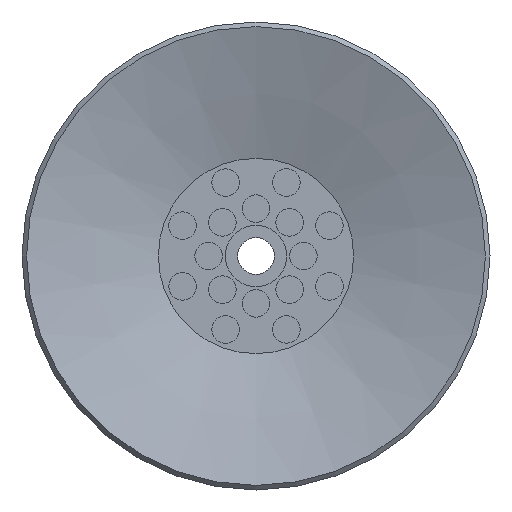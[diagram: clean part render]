
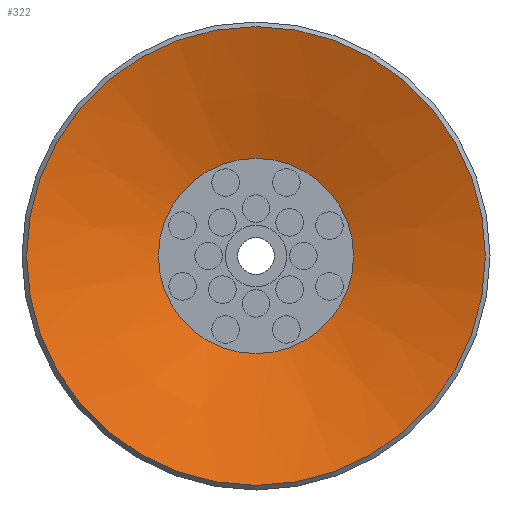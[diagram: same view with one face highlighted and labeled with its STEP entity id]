
A CAD part, front view. The second image highlights one B-rep face of the part: STEP entity #322.
In plain terms, the highlighted conical face has half-angle 72 degrees and reference radius 7.5 mm.
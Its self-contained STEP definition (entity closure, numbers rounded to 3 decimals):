
#322=ADVANCED_FACE('',(#500,#501),#502,.F.);
#500=FACE_BOUND('',#747,.T.);
#501=FACE_OUTER_BOUND('',#748,.T.);
#502=CONICAL_SURFACE('',#749,7.5,1.257);
#747=EDGE_LOOP('',(#1145));
#748=EDGE_LOOP('',(#1146));
#749=AXIS2_PLACEMENT_3D('',#1147,#1148,#1149);
#1145=ORIENTED_EDGE('',*,*,#1388,.T.);
#1146=ORIENTED_EDGE('',*,*,#1389,.F.);
#1147=CARTESIAN_POINT('',(0.0,0.,0.));
#1148=DIRECTION('',(0.0,0.,-1.0));
#1149=DIRECTION('',(0.0,1.0,0.));
#1388=EDGE_CURVE('',#1553,#1553,#1554,.T.);
#1389=EDGE_CURVE('',#1555,#1555,#1556,.T.);
#1553=VERTEX_POINT('',#1783);
#1554=CIRCLE('',#1784,3.191);
#1555=VERTEX_POINT('',#1785);
#1556=CIRCLE('',#1786,7.5);
#1783=CARTESIAN_POINT('',(0.0,-3.191,1.4));
#1784=AXIS2_PLACEMENT_3D('',#2003,#2004,#2005);
#1785=CARTESIAN_POINT('',(0.0,-7.5,0.));
#1786=AXIS2_PLACEMENT_3D('',#2006,#2007,#2008);
#2003=CARTESIAN_POINT('',(0.0,0.,1.4));
#2004=DIRECTION('',(0.0,0.,1.0));
#2005=DIRECTION('',(0.0,-1.0,0.));
#2006=CARTESIAN_POINT('',(0.0,0.,0.));
#2007=DIRECTION('',(0.0,0.,1.0));
#2008=DIRECTION('',(0.0,-1.0,0.));
